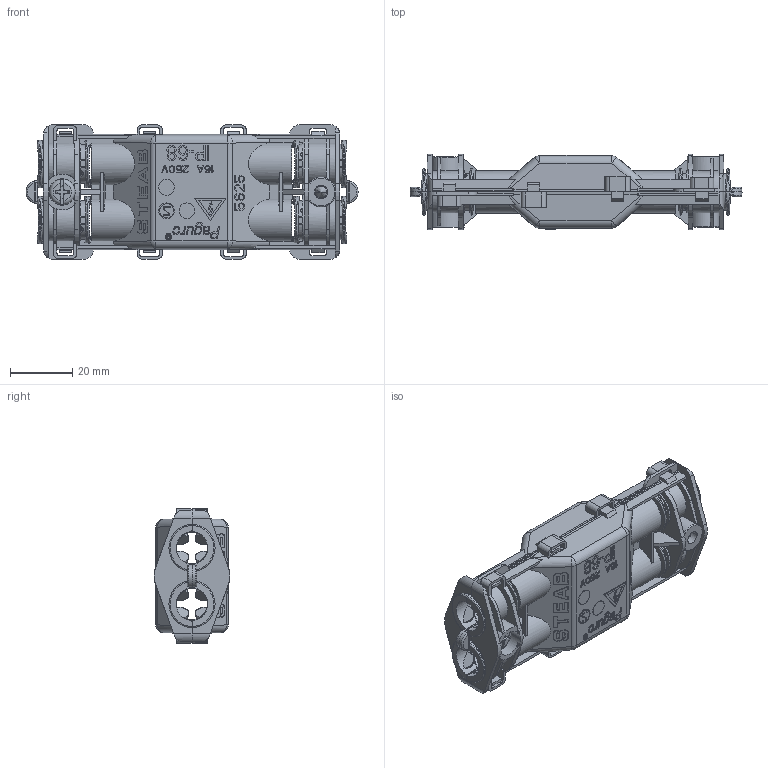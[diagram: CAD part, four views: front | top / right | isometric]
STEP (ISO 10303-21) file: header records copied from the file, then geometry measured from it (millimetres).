
FILE_DESCRIPTION((''),'2;1');
FILE_NAME('5625_1-CATALOGO-3D_ASM','2012-12-17T',('cad10'),(''),'PRO/ENGINEER BY PARAMETRIC TECHNOLOGY CORPORATION, 2010180','PRO/ENGINEER BY PARAMETRIC TECHNOLOGY CORPORATION, 2010180','');
FILE_SCHEMA(('CONFIG_CONTROL_DESIGN'));
Products named in the file (4): 5625_1-CATALOGO-3D; 005625_41682; 5670_13_10-PARTICOLARE1; 5625_1-CATALOGO-3D_ASM
Assembly tree (8 placements, depth 2):
  5625_1-CATALOGO-3D_ASM
    5625_1-CATALOGO-3D  x2
    005625_41682  x2
    5670_13_10-PARTICOLARE1  x4
Bounding box: 106.45 x 24.26 x 43.1 mm (x, y, z)
Volume: 20449.5 mm3; surface area: 34797.7 mm2
Topology: 8 solids, 8 shells, 3576 faces, 10060 edges, 6602 vertices
Faces by surface type: plane 2586, cylinder 494, bspline 358, cone 104, sphere 24, torus 10
Entity records: 59453 total; most frequent: CARTESIAN_POINT 20361, ORIENTED_EDGE 8774, DIRECTION 7021, EDGE_CURVE 4387, VECTOR 3511, LINE 3511, VERTEX_POINT 2893, AXIS2_PLACEMENT_3D 1755
